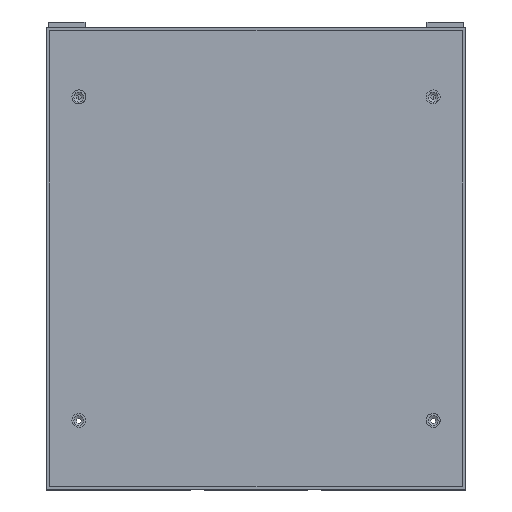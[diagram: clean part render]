
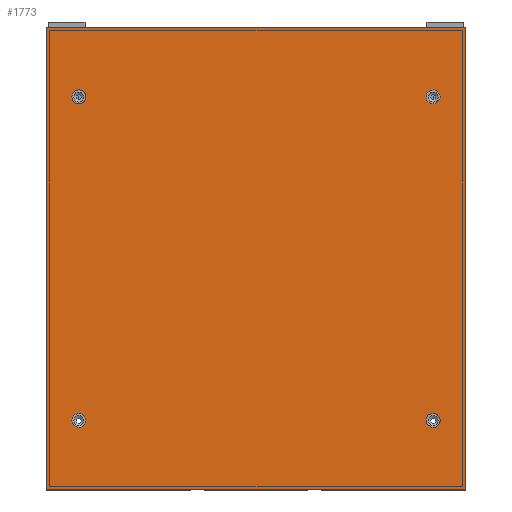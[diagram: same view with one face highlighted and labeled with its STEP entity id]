
A CAD part, top view. The second image highlights one B-rep face of the part: STEP entity #1773.
In plain terms, the highlighted planar face has unit normal (0, 0, 1).
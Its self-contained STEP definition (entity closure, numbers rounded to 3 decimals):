
#1773=ADVANCED_FACE('',(#3028,#3029,#3030,#3031,#3032),#2599,.F.);
#2599=PLANE('',#17735);
#3028=FACE_BOUND('',#3930,.T.);
#3029=FACE_BOUND('',#3931,.T.);
#3030=FACE_BOUND('',#3932,.T.);
#3031=FACE_BOUND('',#3933,.T.);
#3032=FACE_BOUND('',#3934,.T.);
#3930=EDGE_LOOP('',(#7267));
#3931=EDGE_LOOP('',(#7268));
#3932=EDGE_LOOP('',(#7269));
#3933=EDGE_LOOP('',(#7270));
#3934=EDGE_LOOP('',(#7271,#7272,#7273,#7274));
#5312=CIRCLE('',#17731,2.25);
#5313=CIRCLE('',#17732,2.25);
#5314=CIRCLE('',#17733,2.25);
#5315=CIRCLE('',#17734,2.25);
#7267=ORIENTED_EDGE('',*,*,#13312,.F.);
#7268=ORIENTED_EDGE('',*,*,#13313,.F.);
#7269=ORIENTED_EDGE('',*,*,#13314,.F.);
#7270=ORIENTED_EDGE('',*,*,#13315,.F.);
#7271=ORIENTED_EDGE('',*,*,#12987,.F.);
#7272=ORIENTED_EDGE('',*,*,#13316,.F.);
#7273=ORIENTED_EDGE('',*,*,#12917,.F.);
#7274=ORIENTED_EDGE('',*,*,#13317,.F.);
#11140=VERTEX_POINT('',#26336);
#11141=VERTEX_POINT('',#26338);
#11182=VERTEX_POINT('',#26467);
#11183=VERTEX_POINT('',#26469);
#11393=VERTEX_POINT('',#27127);
#11394=VERTEX_POINT('',#27129);
#11395=VERTEX_POINT('',#27131);
#11396=VERTEX_POINT('',#27133);
#12917=EDGE_CURVE('',#11140,#11141,#15000,.T.);
#12987=EDGE_CURVE('',#11182,#11183,#15052,.T.);
#13312=EDGE_CURVE('',#11393,#11393,#5312,.T.);
#13313=EDGE_CURVE('',#11394,#11394,#5313,.T.);
#13314=EDGE_CURVE('',#11395,#11395,#5314,.T.);
#13315=EDGE_CURVE('',#11396,#11396,#5315,.T.);
#13316=EDGE_CURVE('',#11141,#11182,#15254,.T.);
#13317=EDGE_CURVE('',#11183,#11140,#15255,.T.);
#15000=LINE('',#26337,#16214);
#15052=LINE('',#26468,#16266);
#15254=LINE('',#27134,#16468);
#15255=LINE('',#27135,#16469);
#16214=VECTOR('',#19883,1.);
#16266=VECTOR('',#20009,1.);
#16468=VECTOR('',#20711,1.);
#16469=VECTOR('',#20712,1.);
#17731=AXIS2_PLACEMENT_3D('',#27126,#20703,#20704);
#17732=AXIS2_PLACEMENT_3D('',#27128,#20705,#20706);
#17733=AXIS2_PLACEMENT_3D('',#27130,#20707,#20708);
#17734=AXIS2_PLACEMENT_3D('',#27132,#20709,#20710);
#17735=AXIS2_PLACEMENT_3D('',#27136,#20713,#20714);
#19883=DIRECTION('',(0.,1.,0.));
#20009=DIRECTION('',(0.,-1.,0.));
#20703=DIRECTION('',(0.,0.,1.));
#20704=DIRECTION('',(-1.,0.,0.));
#20705=DIRECTION('',(0.,0.,1.));
#20706=DIRECTION('',(1.,0.,0.));
#20707=DIRECTION('',(0.,0.,1.));
#20708=DIRECTION('',(-1.,0.,0.));
#20709=DIRECTION('',(0.,0.,1.));
#20710=DIRECTION('',(1.,0.,0.));
#20711=DIRECTION('',(1.,0.,0.));
#20712=DIRECTION('',(-1.,0.,0.));
#20713=DIRECTION('',(0.,0.,-1.));
#20714=DIRECTION('',(1.,0.,0.));
#26336=CARTESIAN_POINT('',(-68.,-78.,193.));
#26337=CARTESIAN_POINT('',(-68.,72.,193.));
#26338=CARTESIAN_POINT('',(-68.,72.,193.));
#26467=CARTESIAN_POINT('',(68.,72.,193.));
#26468=CARTESIAN_POINT('',(68.,72.,193.));
#26469=CARTESIAN_POINT('',(68.,-78.,193.));
#27126=CARTESIAN_POINT('',(-57.5,-55.5,193.));
#27127=CARTESIAN_POINT('',(-59.75,-55.5,193.));
#27128=CARTESIAN_POINT('',(57.5,-55.5,193.));
#27129=CARTESIAN_POINT('',(59.75,-55.5,193.));
#27130=CARTESIAN_POINT('',(57.5,49.5,193.));
#27131=CARTESIAN_POINT('',(55.25,49.5,193.));
#27132=CARTESIAN_POINT('',(-57.5,49.5,193.));
#27133=CARTESIAN_POINT('',(-55.25,49.5,193.));
#27134=CARTESIAN_POINT('',(68.,72.,193.));
#27135=CARTESIAN_POINT('',(68.,-78.,193.));
#27136=CARTESIAN_POINT('',(0.,-3.,193.));
